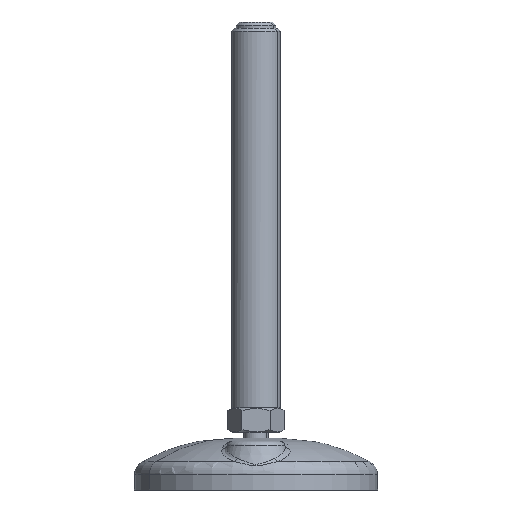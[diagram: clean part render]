
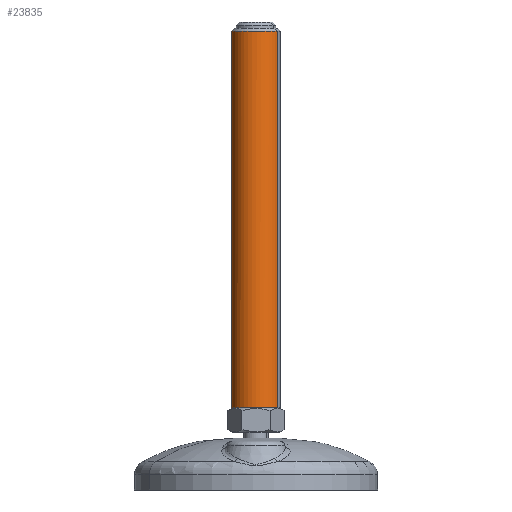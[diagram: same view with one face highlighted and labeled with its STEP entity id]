
A CAD part, left-side view. The second image highlights one B-rep face of the part: STEP entity #23835.
In plain terms, the highlighted cylindrical face has radius 8 mm (diameter 16 mm), a partial arc.
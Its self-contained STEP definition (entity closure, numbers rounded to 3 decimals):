
#23609=CARTESIAN_POINT('Vertex',(3.835,7.021,137.5)) ;
#23611=CARTESIAN_POINT('Vertex',(-3.835,-7.021,137.5)) ;
#23640=CARTESIAN_POINT('Axis2P3D Location',(0.,0.,137.5)) ;
#23781=CARTESIAN_POINT('Axis2P3D Location',(0.,0.,67.75)) ;
#23786=CARTESIAN_POINT('Axis2P3D Location',(0.,0.,13.5)) ;
#23790=CARTESIAN_POINT('Vertex',(-4.,6.928,13.5)) ;
#23792=CARTESIAN_POINT('Vertex',(3.835,7.021,13.5)) ;
#23795=CARTESIAN_POINT('Axis2P3D Location',(0.,0.,13.5)) ;
#23799=CARTESIAN_POINT('Vertex',(-8.,0.,13.5)) ;
#23802=CARTESIAN_POINT('Axis2P3D Location',(0.,0.,13.5)) ;
#23806=CARTESIAN_POINT('Vertex',(-4.,-6.928,13.5)) ;
#23809=CARTESIAN_POINT('Axis2P3D Location',(0.,0.,13.5)) ;
#23813=CARTESIAN_POINT('Vertex',(-3.835,-7.021,13.5)) ;
#23816=CARTESIAN_POINT('Line Origine',(-3.835,-7.021,75.5)) ;
#23821=CARTESIAN_POINT('Line Origine',(3.835,7.021,75.5)) ;
#23641=DIRECTION('Axis2P3D Direction',(0.,0.,-1.)) ;
#23782=DIRECTION('Axis2P3D Direction',(0.,0.,-1.)) ;
#23783=DIRECTION('Axis2P3D XDirection',(0.479,0.878,0.)) ;
#23787=DIRECTION('Axis2P3D Direction',(0.,0.,-1.)) ;
#23796=DIRECTION('Axis2P3D Direction',(0.,0.,-1.)) ;
#23803=DIRECTION('Axis2P3D Direction',(0.,0.,-1.)) ;
#23810=DIRECTION('Axis2P3D Direction',(0.,0.,-1.)) ;
#23817=DIRECTION('Vector Direction',(0.,0.,-1.)) ;
#23822=DIRECTION('Vector Direction',(0.,0.,-1.)) ;
#23642=AXIS2_PLACEMENT_3D('Circle Axis2P3D',#23640,#23641,$) ;
#23784=AXIS2_PLACEMENT_3D('Cylinder Axis2P3D',#23781,#23782,#23783) ;
#23788=AXIS2_PLACEMENT_3D('Circle Axis2P3D',#23786,#23787,$) ;
#23797=AXIS2_PLACEMENT_3D('Circle Axis2P3D',#23795,#23796,$) ;
#23804=AXIS2_PLACEMENT_3D('Circle Axis2P3D',#23802,#23803,$) ;
#23811=AXIS2_PLACEMENT_3D('Circle Axis2P3D',#23809,#23810,$) ;
#23827=ORIENTED_EDGE('',*,*,#23794,.F.) ;
#23828=ORIENTED_EDGE('',*,*,#23801,.F.) ;
#23829=ORIENTED_EDGE('',*,*,#23808,.F.) ;
#23830=ORIENTED_EDGE('',*,*,#23815,.F.) ;
#23831=ORIENTED_EDGE('',*,*,#23820,.T.) ;
#23832=ORIENTED_EDGE('',*,*,#23644,.T.) ;
#23833=ORIENTED_EDGE('',*,*,#23825,.F.) ;
#23818=VECTOR('Line Direction',#23817,1.) ;
#23823=VECTOR('Line Direction',#23822,1.) ;
#23835=ADVANCED_FACE('PartBody',(#23834),#23785,.T.) ;
#23643=CIRCLE('generated circle',#23642,8.) ;
#23789=CIRCLE('generated circle',#23788,8.) ;
#23798=CIRCLE('generated circle',#23797,8.) ;
#23805=CIRCLE('generated circle',#23804,8.) ;
#23812=CIRCLE('generated circle',#23811,8.) ;
#23785=CYLINDRICAL_SURFACE('generated cylinder',#23784,8.) ;
#23644=EDGE_CURVE('',#23612,#23610,#23643,.T.) ;
#23794=EDGE_CURVE('',#23791,#23793,#23789,.T.) ;
#23801=EDGE_CURVE('',#23800,#23791,#23798,.T.) ;
#23808=EDGE_CURVE('',#23807,#23800,#23805,.T.) ;
#23815=EDGE_CURVE('',#23814,#23807,#23812,.T.) ;
#23820=EDGE_CURVE('',#23814,#23612,#23819,.F.) ;
#23825=EDGE_CURVE('',#23793,#23610,#23824,.F.) ;
#23826=EDGE_LOOP('',(#23827,#23828,#23829,#23830,#23831,#23832,#23833)) ;
#23834=FACE_OUTER_BOUND('',#23826,.T.) ;
#23819=LINE('Line',#23816,#23818) ;
#23824=LINE('Line',#23821,#23823) ;
#23610=VERTEX_POINT('',#23609) ;
#23612=VERTEX_POINT('',#23611) ;
#23791=VERTEX_POINT('',#23790) ;
#23793=VERTEX_POINT('',#23792) ;
#23800=VERTEX_POINT('',#23799) ;
#23807=VERTEX_POINT('',#23806) ;
#23814=VERTEX_POINT('',#23813) ;
